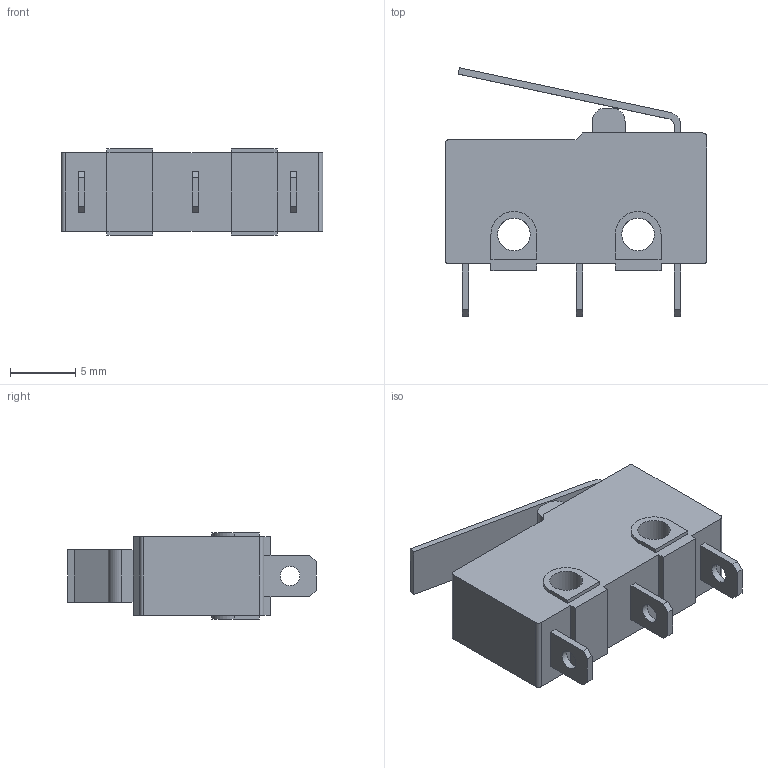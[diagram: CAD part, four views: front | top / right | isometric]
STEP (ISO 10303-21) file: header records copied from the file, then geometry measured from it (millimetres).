
FILE_DESCRIPTION(('FreeCAD Model'),'2;1');
FILE_NAME('Open CASCADE Shape Model','2023-05-06T18:44:57',('Author'),( ''),'Open CASCADE STEP processor 7.5','FreeCAD','Unknown');
FILE_SCHEMA(('AUTOMOTIVE_DESIGN { 1 0 10303 214 1 1 1 1 }'));
Length unit declared in the file: millimetre
Products named in the file (1): tamper 100206
Bounding box: 20 x 18.99 x 6.6 mm (x, y, z)
Volume: 1208.4 mm3; surface area: 1149.1 mm2
Topology: 2 solids, 2 shells, 83 faces, 213 edges, 142 vertices
Faces by surface type: plane 66, cylinder 17
Full cylindrical faces by diameter (mm): 1.5 x3, 2.5 x2
Entity records: 3441 total; most frequent: CARTESIAN_POINT 434, ORIENTED_EDGE 416, DIRECTION 410, EDGE_CURVE 208, LINE 174, VECTOR 174, VERTEX_POINT 142, AXIS2_PLACEMENT_3D 118
